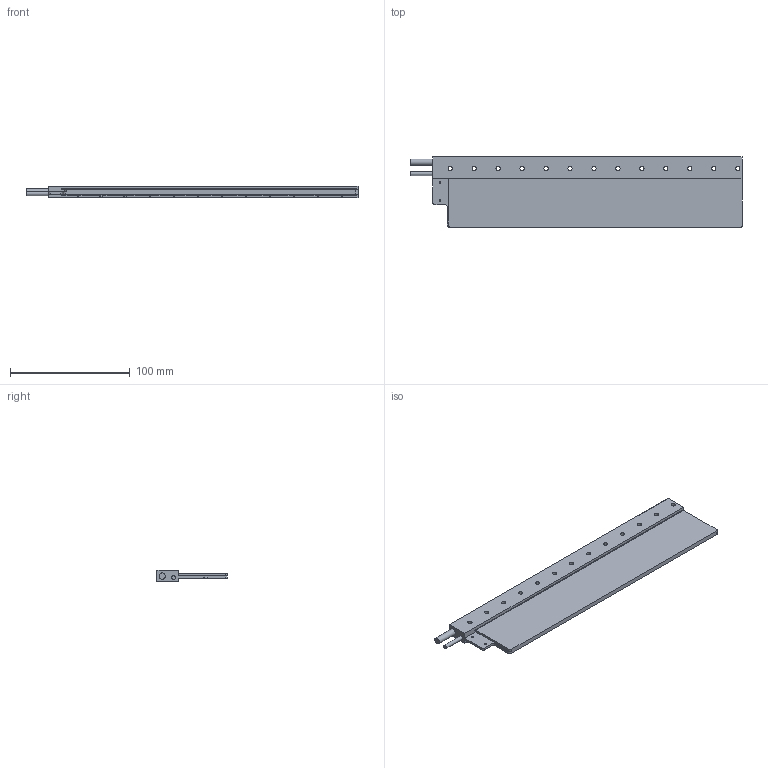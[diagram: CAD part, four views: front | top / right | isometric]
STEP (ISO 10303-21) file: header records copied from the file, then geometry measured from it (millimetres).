
FILE_DESCRIPTION( ( '-' ), '1' );
FILE_NAME( 'C:/Users/peikelboom/Desktop/STEP Files/Ironless/UM/Coilunit UM 12_160607.stp', '20-04-2016', ( 'P.Eikelboom' ), ( 'Technotion' ), 'PSStep 16.0.42', '-', ' ' );
FILE_SCHEMA( ( 'AUTOMOTIVE_DESIGN { 1 0 10303 214 1 1 1 1 }' ) );
Length unit declared in the file: millimetre
Products named in the file (1): 4022 363 35012-oa0
Bounding box: 277 x 59.1 x 10 mm (x, y, z)
Surface area: 39666.5 mm2 (no closed solid volume)
Topology: 0 solids, 150 shells, 150 faces, 822 edges, 801 vertices
Faces by surface type: cylinder 78, plane 70, cone 2
Full cylindrical faces by diameter (mm): 1.6 x2, 3.2 x2, 3.5 x13, 5.3 x1, 5.6 x1
Entity records: 9488 total; most frequent: CARTESIAN_POINT 2171, DIRECTION 1314, ORIENTED_EDGE 794, EDGE_CURVE 794, VERTEX_POINT 794, LINE 480, VECTOR 480, AXIS2_PLACEMENT_3D 417
